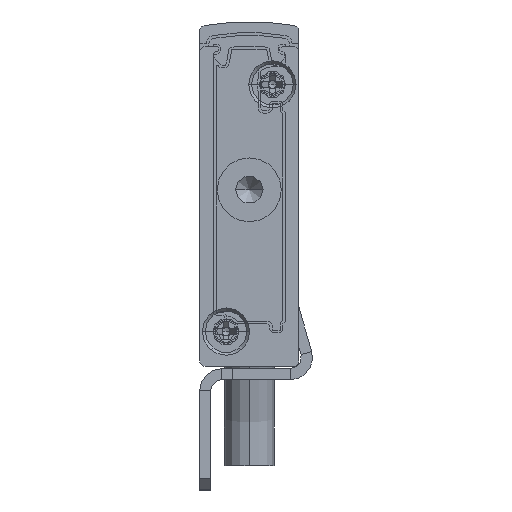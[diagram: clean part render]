
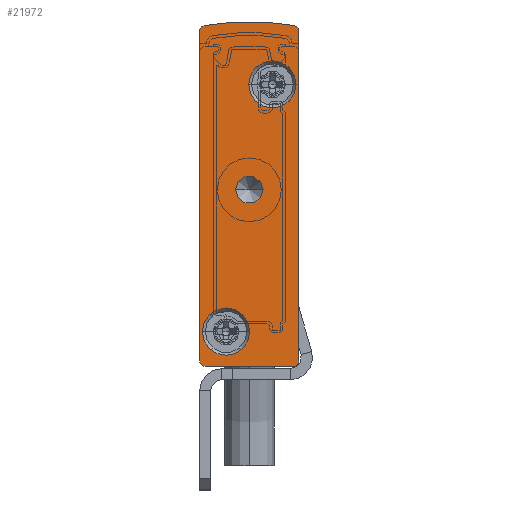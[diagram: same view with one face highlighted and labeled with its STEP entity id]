
A CAD part, front view. The second image highlights one B-rep face of the part: STEP entity #21972.
In plain terms, the highlighted planar face has unit normal (0, -1, 0).
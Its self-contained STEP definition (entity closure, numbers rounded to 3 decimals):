
#227 = VERTEX_POINT ( 'NONE', #18024 ) ;
#373 = FACE_BOUND ( 'NONE', #14937, .T. ) ;
#459 = ORIENTED_EDGE ( 'NONE', *, *, #17429, .F. ) ;
#780 = ORIENTED_EDGE ( 'NONE', *, *, #6002, .F. ) ;
#809 = CARTESIAN_POINT ( 'NONE',  ( -2.4, -2.5, 25.55 ) ) ;
#890 = CARTESIAN_POINT ( 'NONE',  ( -4.55, -2.5, 25.55 ) ) ;
#1184 = VERTEX_POINT ( 'NONE', #12055 ) ;
#1432 = AXIS2_PLACEMENT_3D ( 'NONE', #12416, #14436, #10516 ) ;
#1733 = CARTESIAN_POINT ( 'NONE',  ( -6.6, -2.5, 3.15 ) ) ;
#2072 = EDGE_CURVE ( 'NONE', #12810, #1184, #14375, .T. ) ;
#2310 = AXIS2_PLACEMENT_3D ( 'NONE', #17102, #9299, #5083 ) ;
#2352 = CIRCLE ( 'NONE', #16869, 1.25 ) ;
#2426 = EDGE_CURVE ( 'NONE', #5291, #12810, #2523, .T. ) ;
#2431 = AXIS2_PLACEMENT_3D ( 'NONE', #3050, #25105, #16962 ) ;
#2523 = CIRCLE ( 'NONE', #19820, 0.5 ) ;
#2537 = DIRECTION ( 'NONE',  ( 0., 0., -1. ) ) ;
#2575 = CIRCLE ( 'NONE', #25097, 23.658 ) ;
#2996 = DIRECTION ( 'NONE',  ( 1., 0., 0. ) ) ;
#3050 = CARTESIAN_POINT ( 'NONE',  ( -8.5, -2.5, 30.402 ) ) ;
#3131 = CIRCLE ( 'NONE', #16310, 2.15 ) ;
#3442 = DIRECTION ( 'NONE',  ( 0., 1., 0. ) ) ;
#3450 = FACE_BOUND ( 'NONE', #24098, .T. ) ;
#3471 = VECTOR ( 'NONE', #4197, 1000. ) ;
#3560 = CARTESIAN_POINT ( 'NONE',  ( -0.25, -2.5, 25.55 ) ) ;
#3632 = DIRECTION ( 'NONE',  ( 1., 0., 0. ) ) ;
#4016 = ORIENTED_EDGE ( 'NONE', *, *, #7101, .F. ) ;
#4020 = VECTOR ( 'NONE', #15432, 1000. ) ;
#4197 = DIRECTION ( 'NONE',  ( 0., 0., 1. ) ) ;
#4487 = CARTESIAN_POINT ( 'NONE',  ( -4.45, -2.5, 3.15 ) ) ;
#4507 = CARTESIAN_POINT ( 'NONE',  ( 0., -2.5, 30.402 ) ) ;
#4843 = CARTESIAN_POINT ( 'NONE',  ( -2.4, -2.5, 25.55 ) ) ;
#5083 = DIRECTION ( 'NONE',  ( -1., 0., 0. ) ) ;
#5291 = VERTEX_POINT ( 'NONE', #14219 ) ;
#5670 = DIRECTION ( 'NONE',  ( 0., -1., 0. ) ) ;
#5842 = VERTEX_POINT ( 'NONE', #18165 ) ;
#5998 = EDGE_CURVE ( 'NONE', #1184, #5842, #6199, .T. ) ;
#6002 = EDGE_CURVE ( 'NONE', #23099, #8761, #3131, .T. ) ;
#6199 = CIRCLE ( 'NONE', #2431, 0.5 ) ;
#6680 = ORIENTED_EDGE ( 'NONE', *, *, #24032, .F. ) ;
#7101 = EDGE_CURVE ( 'NONE', #8761, #23099, #9631, .T. ) ;
#7311 = VERTEX_POINT ( 'NONE', #4507 ) ;
#7781 = EDGE_CURVE ( 'NONE', #227, #18657, #2352, .T. ) ;
#8348 = VERTEX_POINT ( 'NONE', #3560 ) ;
#8376 = AXIS2_PLACEMENT_3D ( 'NONE', #9527, #17157, #25229 ) ;
#8761 = VERTEX_POINT ( 'NONE', #4487 ) ;
#9299 = DIRECTION ( 'NONE',  ( 0., 1., 0. ) ) ;
#9350 = DIRECTION ( 'NONE',  ( 0., 1., 0. ) ) ;
#9414 = CARTESIAN_POINT ( 'NONE',  ( 0., -2.5, 0.5 ) ) ;
#9527 = CARTESIAN_POINT ( 'NONE',  ( -0.5, -2.5, 30.402 ) ) ;
#9607 = DIRECTION ( 'NONE',  ( 0., -1., 0. ) ) ;
#9631 = CIRCLE ( 'NONE', #12821, 2.15 ) ;
#10066 = CIRCLE ( 'NONE', #24524, 2.15 ) ;
#10267 = LINE ( 'NONE', #17560, #4020 ) ;
#10422 = ORIENTED_EDGE ( 'NONE', *, *, #12624, .F. ) ;
#10516 = DIRECTION ( 'NONE',  ( -1., 0., 0. ) ) ;
#10563 = VERTEX_POINT ( 'NONE', #890 ) ;
#10639 = EDGE_LOOP ( 'NONE', ( #12283, #23780, #25866, #6680, #19149, #10422, #24466, #13421 ) ) ;
#11449 = EDGE_CURVE ( 'NONE', #25755, #13718, #14683, .T. ) ;
#11500 = ORIENTED_EDGE ( 'NONE', *, *, #18311, .F. ) ;
#11589 = CARTESIAN_POINT ( 'NONE',  ( -9., -2.5, 0.5 ) ) ;
#11729 = DIRECTION ( 'NONE',  ( -1., 0., 0. ) ) ;
#11770 = DIRECTION ( 'NONE',  ( 0., 1., 0. ) ) ;
#11912 = AXIS2_PLACEMENT_3D ( 'NONE', #4843, #17636, #3632 ) ;
#12055 = CARTESIAN_POINT ( 'NONE',  ( -9., -2.5, 30.402 ) ) ;
#12276 = EDGE_CURVE ( 'NONE', #18657, #227, #23385, .T. ) ;
#12283 = ORIENTED_EDGE ( 'NONE', *, *, #5998, .F. ) ;
#12416 = CARTESIAN_POINT ( 'NONE',  ( -0.5, -2.5, 0.5 ) ) ;
#12624 = EDGE_CURVE ( 'NONE', #7311, #25755, #23338, .T. ) ;
#12810 = VERTEX_POINT ( 'NONE', #11589 ) ;
#12821 = AXIS2_PLACEMENT_3D ( 'NONE', #1733, #9607, #21445 ) ;
#12995 = EDGE_CURVE ( 'NONE', #23023, #7311, #19230, .T. ) ;
#13421 = ORIENTED_EDGE ( 'NONE', *, *, #15959, .F. ) ;
#13718 = VERTEX_POINT ( 'NONE', #14133 ) ;
#13823 = CARTESIAN_POINT ( 'NONE',  ( -8.5, -2.5, 30.402 ) ) ;
#13908 = DIRECTION ( 'NONE',  ( 0., 1., 0. ) ) ;
#14133 = CARTESIAN_POINT ( 'NONE',  ( -0.5, -2.5, 0. ) ) ;
#14147 = CARTESIAN_POINT ( 'NONE',  ( -9., -2.5, 30.402 ) ) ;
#14219 = CARTESIAN_POINT ( 'NONE',  ( -8.5, -2.5, 0. ) ) ;
#14375 = LINE ( 'NONE', #14147, #3471 ) ;
#14436 = DIRECTION ( 'NONE',  ( 0., 1., 0. ) ) ;
#14481 = CARTESIAN_POINT ( 'NONE',  ( 0., -2.5, 30.402 ) ) ;
#14683 = CIRCLE ( 'NONE', #1432, 0.5 ) ;
#14879 = CARTESIAN_POINT ( 'NONE',  ( -4.5, -2.5, 16. ) ) ;
#14937 = EDGE_LOOP ( 'NONE', ( #4016, #780 ) ) ;
#15074 = CARTESIAN_POINT ( 'NONE',  ( -0.408, -2.5, 30.893 ) ) ;
#15410 = ORIENTED_EDGE ( 'NONE', *, *, #12276, .T. ) ;
#15432 = DIRECTION ( 'NONE',  ( -1., 0., 0. ) ) ;
#15959 = EDGE_CURVE ( 'NONE', #5842, #23023, #2575, .T. ) ;
#16049 = ORIENTED_EDGE ( 'NONE', *, *, #7781, .T. ) ;
#16248 = FACE_BOUND ( 'NONE', #23077, .T. ) ;
#16310 = AXIS2_PLACEMENT_3D ( 'NONE', #18958, #5670, #25427 ) ;
#16869 = AXIS2_PLACEMENT_3D ( 'NONE', #14879, #3442, #21393 ) ;
#16962 = DIRECTION ( 'NONE',  ( -1., 0., 0. ) ) ;
#17036 = CARTESIAN_POINT ( 'NONE',  ( -8.75, -2.5, 3.15 ) ) ;
#17102 = CARTESIAN_POINT ( 'NONE',  ( -4.5, -2.5, 16. ) ) ;
#17157 = DIRECTION ( 'NONE',  ( 0., 1., 0. ) ) ;
#17429 = EDGE_CURVE ( 'NONE', #8348, #10563, #20418, .T. ) ;
#17560 = CARTESIAN_POINT ( 'NONE',  ( -8.5, -2.5, 0. ) ) ;
#17605 = CARTESIAN_POINT ( 'NONE',  ( -4.5, -2.5, 7.592 ) ) ;
#17636 = DIRECTION ( 'NONE',  ( 0., -1., 0. ) ) ;
#18024 = CARTESIAN_POINT ( 'NONE',  ( -5.75, -2.5, 16. ) ) ;
#18165 = CARTESIAN_POINT ( 'NONE',  ( -8.592, -2.5, 30.893 ) ) ;
#18311 = EDGE_CURVE ( 'NONE', #10563, #8348, #10066, .T. ) ;
#18657 = VERTEX_POINT ( 'NONE', #21529 ) ;
#18958 = CARTESIAN_POINT ( 'NONE',  ( -6.6, -2.5, 3.15 ) ) ;
#19149 = ORIENTED_EDGE ( 'NONE', *, *, #11449, .F. ) ;
#19230 = CIRCLE ( 'NONE', #8376, 0.5 ) ;
#19333 = DIRECTION ( 'NONE',  ( -1., 0., 0. ) ) ;
#19334 = FACE_OUTER_BOUND ( 'NONE', #10639, .T. ) ;
#19820 = AXIS2_PLACEMENT_3D ( 'NONE', #25376, #9350, #19333 ) ;
#20418 = CIRCLE ( 'NONE', #11912, 2.15 ) ;
#20869 = AXIS2_PLACEMENT_3D ( 'NONE', #13823, #13908, #11729 ) ;
#21393 = DIRECTION ( 'NONE',  ( -1., 0., 0. ) ) ;
#21445 = DIRECTION ( 'NONE',  ( 1., 0., 0. ) ) ;
#21529 = CARTESIAN_POINT ( 'NONE',  ( -3.25, -2.5, 16. ) ) ;
#21972 = ADVANCED_FACE ( 'NONE', ( #16248, #373, #19334, #3450 ), #25796, .F. ) ;
#22400 = VECTOR ( 'NONE', #2537, 1000. ) ;
#23023 = VERTEX_POINT ( 'NONE', #15074 ) ;
#23077 = EDGE_LOOP ( 'NONE', ( #459, #11500 ) ) ;
#23099 = VERTEX_POINT ( 'NONE', #17036 ) ;
#23338 = LINE ( 'NONE', #14481, #22400 ) ;
#23385 = CIRCLE ( 'NONE', #2310, 1.25 ) ;
#23780 = ORIENTED_EDGE ( 'NONE', *, *, #2072, .F. ) ;
#24032 = EDGE_CURVE ( 'NONE', #13718, #5291, #10267, .T. ) ;
#24098 = EDGE_LOOP ( 'NONE', ( #16049, #15410 ) ) ;
#24466 = ORIENTED_EDGE ( 'NONE', *, *, #12995, .F. ) ;
#24524 = AXIS2_PLACEMENT_3D ( 'NONE', #809, #24888, #2996 ) ;
#24888 = DIRECTION ( 'NONE',  ( 0., -1., 0. ) ) ;
#25097 = AXIS2_PLACEMENT_3D ( 'NONE', #17605, #11770, #25670 ) ;
#25105 = DIRECTION ( 'NONE',  ( 0., 1., 0. ) ) ;
#25229 = DIRECTION ( 'NONE',  ( -1., 0., 0. ) ) ;
#25376 = CARTESIAN_POINT ( 'NONE',  ( -8.5, -2.5, 0.5 ) ) ;
#25427 = DIRECTION ( 'NONE',  ( 1., 0., 0. ) ) ;
#25670 = DIRECTION ( 'NONE',  ( -1., 0., 0. ) ) ;
#25755 = VERTEX_POINT ( 'NONE', #9414 ) ;
#25796 = PLANE ( 'NONE',  #20869 ) ;
#25866 = ORIENTED_EDGE ( 'NONE', *, *, #2426, .F. ) ;
